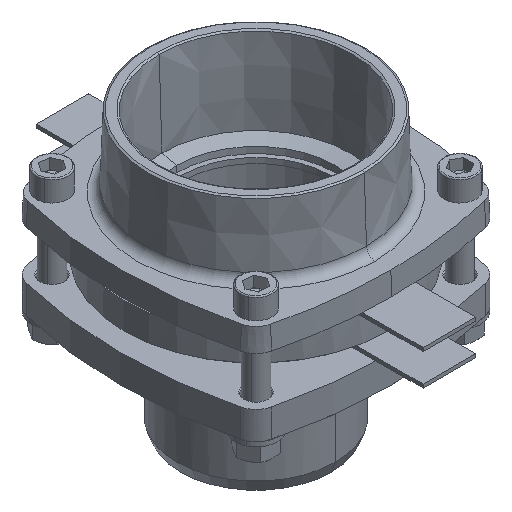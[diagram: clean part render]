
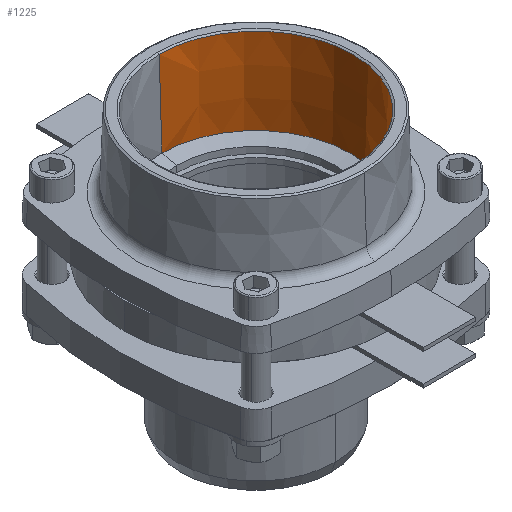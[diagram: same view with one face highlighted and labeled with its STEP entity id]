
A CAD part, isometric view. The second image highlights one B-rep face of the part: STEP entity #1225.
In plain terms, the highlighted conical face has half-angle 1.788 degrees and reference radius 55.036 mm.
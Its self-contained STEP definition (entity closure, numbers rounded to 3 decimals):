
#436 = AXIS2_PLACEMENT_3D ( 'NONE', #7955, #7953, #7950 ) ;
#494 = CONICAL_SURFACE ( 'NONE', #436, 55.036, 0.031 ) ;
#629 = VERTEX_POINT ( 'NONE', #6593 ) ;
#1225 = ADVANCED_FACE ( 'NONE', ( #7952 ), #494, .F. ) ;
#1617 = VERTEX_POINT ( 'NONE', #9359 ) ;
#1618 = VERTEX_POINT ( 'NONE', #9360 ) ;
#1621 = VERTEX_POINT ( 'NONE', #9363 ) ;
#2749 = EDGE_CURVE ( 'NONE', #1621, #629, #11267, .T. ) ;
#2750 = EDGE_CURVE ( 'NONE', #1617, #1618, #11268, .T. ) ;
#2876 = EDGE_LOOP ( 'NONE', ( #3961, #3962, #3963, #3964 ) ) ;
#3961 = ORIENTED_EDGE ( 'NONE', *, *, #5541, .F. ) ;
#3962 = ORIENTED_EDGE ( 'NONE', *, *, #2749, .F. ) ;
#3963 = ORIENTED_EDGE ( 'NONE', *, *, #5539, .T. ) ;
#3964 = ORIENTED_EDGE ( 'NONE', *, *, #2750, .T. ) ;
#5539 = EDGE_CURVE ( 'NONE', #1621, #1617, #13998, .T. ) ;
#5541 = EDGE_CURVE ( 'NONE', #629, #1618, #14007, .T. ) ;
#6593 = CARTESIAN_POINT ( 'NONE',  ( 0., 53.522, 23.5 ) ) ;
#7950 = DIRECTION ( 'NONE',  ( 0., -1., 0. ) ) ;
#7952 = FACE_OUTER_BOUND ( 'NONE', #2876, .T. ) ;
#7953 = DIRECTION ( 'NONE',  ( 0., 0., 1. ) ) ;
#7955 = CARTESIAN_POINT ( 'NONE',  ( 0., 0., 72. ) ) ;
#9359 = CARTESIAN_POINT ( 'NONE',  ( 0., -55.018, 71.412 ) ) ;
#9360 = CARTESIAN_POINT ( 'NONE',  ( 0., 55.018, 71.412 ) ) ;
#9363 = CARTESIAN_POINT ( 'NONE',  ( 0., -53.522, 23.5 ) ) ;
#10521 = CARTESIAN_POINT ( 'NONE',  ( 0., 0., 23.5 ) ) ;
#10522 = DIRECTION ( 'NONE',  ( 0., 0., 1. ) ) ;
#10523 = DIRECTION ( 'NONE',  ( 0., -1., 0. ) ) ;
#10524 = CARTESIAN_POINT ( 'NONE',  ( 0., 0., 71.412 ) ) ;
#10525 = DIRECTION ( 'NONE',  ( 0., 0., 1. ) ) ;
#10526 = DIRECTION ( 'NONE',  ( 0., -1., 0. ) ) ;
#11267 = CIRCLE ( 'NONE', #11271, 53.522 ) ;
#11268 = CIRCLE ( 'NONE', #11273, 55.018 ) ;
#11271 = AXIS2_PLACEMENT_3D ( 'NONE', #10521, #10522, #10523 ) ;
#11273 = AXIS2_PLACEMENT_3D ( 'NONE', #10524, #10525, #10526 ) ;
#13994 = CARTESIAN_POINT ( 'NONE',  ( 0., -55.036, 72. ) ) ;
#13998 = LINE ( 'NONE', #13994, #14307 ) ;
#14000 = CARTESIAN_POINT ( 'NONE',  ( 0., 55.036, 72. ) ) ;
#14004 = DIRECTION ( 'NONE',  ( 0., -0.031, 1. ) ) ;
#14007 = LINE ( 'NONE', #14000, #14306 ) ;
#14011 = DIRECTION ( 'NONE',  ( 0., 0.031, 1. ) ) ;
#14306 = VECTOR ( 'NONE', #14011, 1000. ) ;
#14307 = VECTOR ( 'NONE', #14004, 1000. ) ;
